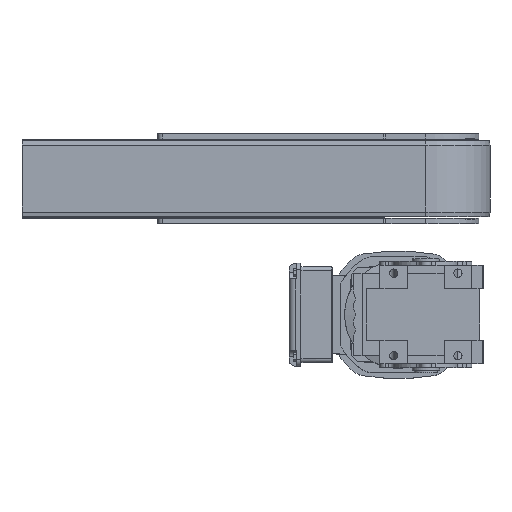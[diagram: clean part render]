
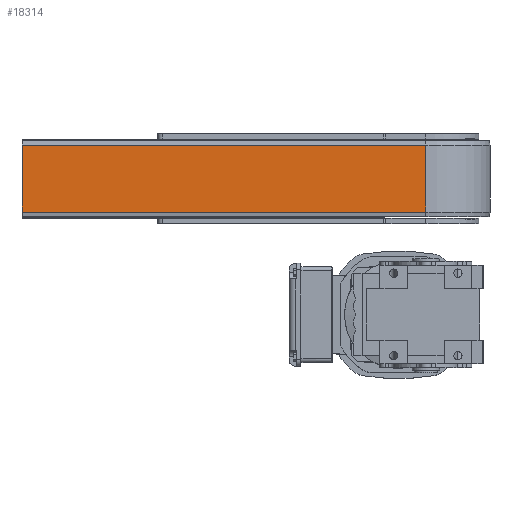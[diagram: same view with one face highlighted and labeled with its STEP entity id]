
A CAD part, top view. The second image highlights one B-rep face of the part: STEP entity #18314.
In plain terms, the highlighted planar face has unit normal (0, 0, 1).
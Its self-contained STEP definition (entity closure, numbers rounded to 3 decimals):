
#16902=CARTESIAN_POINT('',(-510.0,-36.5,0.0));
#16903=VERTEX_POINT('',#16902);
#16910=CARTESIAN_POINT('',(-510.0,36.5,0.0));
#16911=VERTEX_POINT('',#16910);
#16912=CARTESIAN_POINT('',(-510.0,36.5,0.0));
#16913=DIRECTION('',(0.0,-1.0,0.0));
#16914=VECTOR('',#16913,73.0);
#16915=LINE('',#16912,#16914);
#16916=EDGE_CURVE('',#16911,#16903,#16915,.T.);
#18272=CARTESIAN_POINT('',(-70.0,36.5,0.0));
#18273=VERTEX_POINT('',#18272);
#18274=CARTESIAN_POINT('',(-510.0,36.5,0.0));
#18275=DIRECTION('',(1.0,0.0,0.0));
#18276=VECTOR('',#18275,440.0);
#18277=LINE('',#18274,#18276);
#18278=EDGE_CURVE('',#16911,#18273,#18277,.T.);
#18291=CARTESIAN_POINT('',(-510.0,0.0,0.0));
#18292=DIRECTION('',(0.0,0.0,1.0));
#18293=DIRECTION('',(1.0,0.0,0.0));
#18294=AXIS2_PLACEMENT_3D('',#18291,#18292,#18293);
#18295=PLANE('',#18294);
#18296=CARTESIAN_POINT('',(-70.0,-36.5,0.0));
#18297=VERTEX_POINT('',#18296);
#18298=CARTESIAN_POINT('',(-510.0,-36.5,0.0));
#18299=DIRECTION('',(1.0,0.0,0.0));
#18300=VECTOR('',#18299,440.0);
#18301=LINE('',#18298,#18300);
#18302=EDGE_CURVE('',#16903,#18297,#18301,.T.);
#18303=ORIENTED_EDGE('',*,*,#18302,.T.);
#18304=CARTESIAN_POINT('',(-70.0,-36.5,0.0));
#18305=DIRECTION('',(0.0,1.0,0.0));
#18306=VECTOR('',#18305,73.0);
#18307=LINE('',#18304,#18306);
#18308=EDGE_CURVE('',#18297,#18273,#18307,.T.);
#18309=ORIENTED_EDGE('',*,*,#18308,.T.);
#18310=ORIENTED_EDGE('',*,*,#18278,.F.);
#18311=ORIENTED_EDGE('',*,*,#16916,.T.);
#18312=EDGE_LOOP('',(#18303,#18309,#18310,#18311));
#18313=FACE_OUTER_BOUND('',#18312,.T.);
#18314=ADVANCED_FACE('',(#18313),#18295,.T.);
